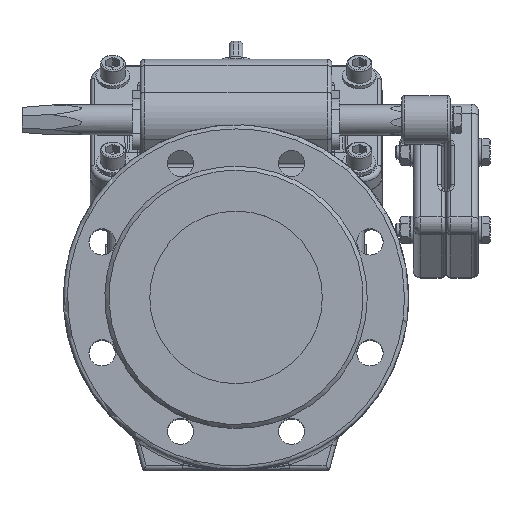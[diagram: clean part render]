
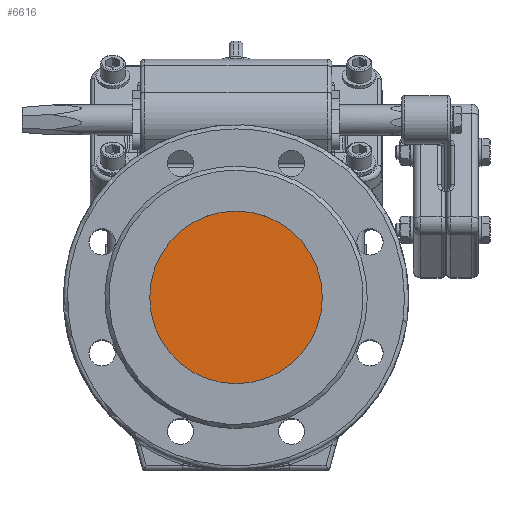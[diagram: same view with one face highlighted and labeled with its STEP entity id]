
A CAD part, top view. The second image highlights one B-rep face of the part: STEP entity #6616.
In plain terms, the highlighted planar face has unit normal (0, 0, 1).
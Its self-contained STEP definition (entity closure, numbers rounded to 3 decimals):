
#6616=ADVANCED_FACE('',(#21126),#21128,.T.);
#21126=FACE_BOUND('',#21127,.T.);
#21127=EDGE_LOOP('',(#29573,#29574));
#21128=PLANE('',#21129);
#21129=AXIS2_PLACEMENT_3D('',#21130,#21131,#21132);
#21130=CARTESIAN_POINT('',(0.,-62.501,85.3));
#21131=DIRECTION('',(0.,0.,1.));
#21132=DIRECTION('',(0.,-1.,0.));
#29573=ORIENTED_EDGE('',*,*,#33345,.F.);
#29574=ORIENTED_EDGE('',*,*,#33346,.F.);
#33345=EDGE_CURVE('',#37331,#37332,#37333,.T.);
#33346=EDGE_CURVE('',#37332,#37331,#37334,.T.);
#37331=VERTEX_POINT('',#64882);
#37332=VERTEX_POINT('',#64883);
#37333=CIRCLE('',#64884,62.5);
#37334=CIRCLE('',#64888,62.5);
#64882=CARTESIAN_POINT('',(62.5,0.,85.3));
#64883=CARTESIAN_POINT('',(0.,-62.5,85.3));
#64884=AXIS2_PLACEMENT_3D('',#64885,#64886,#64887);
#64885=CARTESIAN_POINT('',(0.,0.,85.3));
#64886=DIRECTION('',(0.,0.,-1.));
#64887=DIRECTION('',(1.,0.,0.));
#64888=AXIS2_PLACEMENT_3D('',#64889,#64890,#64891);
#64889=CARTESIAN_POINT('',(0.,0.,85.3));
#64890=DIRECTION('',(0.,0.,-1.));
#64891=DIRECTION('',(0.,-1.,0.));
